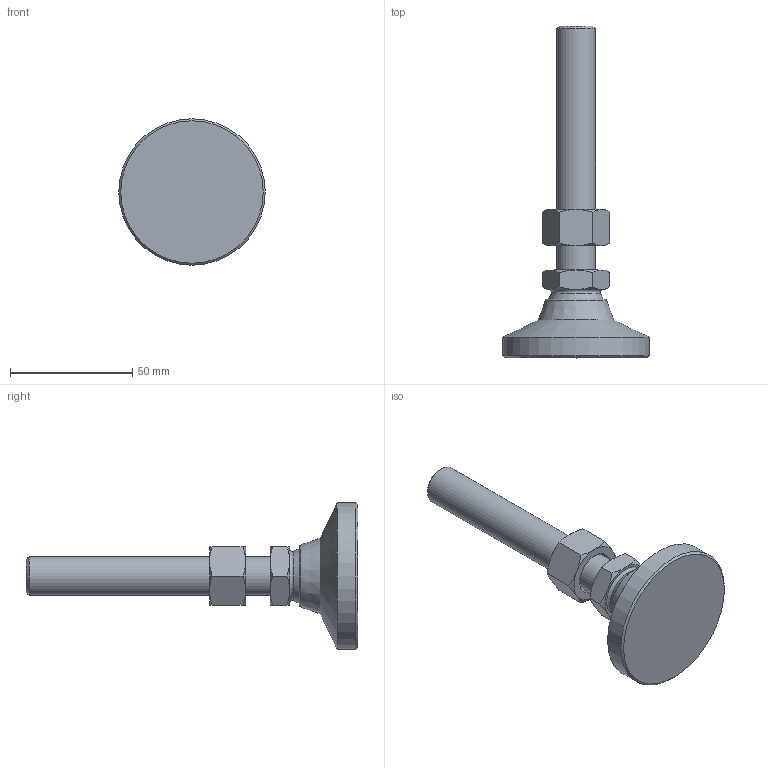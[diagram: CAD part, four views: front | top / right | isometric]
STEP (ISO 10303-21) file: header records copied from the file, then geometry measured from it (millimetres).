
FILE_DESCRIPTION( ( 'STEP AP214' ), ' ' );
FILE_NAME( 'O:/ganter_2015/teil_2/2_5/gn343_2/gn343_2_os/Levelling foot with threaded stud GN 343.2-60-M16-100-OS-(0).stp', '2015-10-26T09:08:33', ( '' ), ( '' ), ' ', 'PARTsolutions', ' ' );
FILE_SCHEMA( ( 'AUTOMOTIVE_DESIGN { 1 0 10303 214 1 1 1 1 }' ) );
Length unit declared in the file: millimetre
Products named in the file (4): Levelling foot with threaded stud GN 343.2-60-M16-100-OS-(0); _Levelling foot with threaded stud GN 343.2-60-M16-100-OS-(0)_foot; _Levelling foot with threaded stud GN 343.2-60-M16-100-OS-(0)_screw; _Stainless Steel-Levelling feet GN 343.2-60-M16-100-OS-(0)_nut
Assembly tree (3 placements, depth 2):
  Levelling foot with threaded stud GN 343.2-60-M16-100-OS-(0)
    _Levelling foot with threaded stud GN 343.2-60-M16-100-OS-(0)_foot
    _Levelling foot with threaded stud GN 343.2-60-M16-100-OS-(0)_screw
    _Stainless Steel-Levelling feet GN 343.2-60-M16-100-OS-(0)_nut
Bounding box: 60 x 136 x 60 mm (x, y, z)
Volume: 71448.5 mm3; surface area: 18767.4 mm2
Topology: 3 solids, 3 shells, 56 faces, 117 edges, 68 vertices
Faces by surface type: cone 30, plane 19, cylinder 3, torus 2, sphere 2
Full cylindrical faces by diameter (mm): 13.835 x1, 16 x1, 60 x1
Entity records: 2082 total; most frequent: CARTESIAN_POINT 514, DIRECTION 212, ORIENTED_EDGE 200, AXIS2_PLACEMENT_3D 100, EDGE_CURVE 100, EDGE_LOOP 72, VERTEX_POINT 66, FACE_OUTER_BOUND 61
